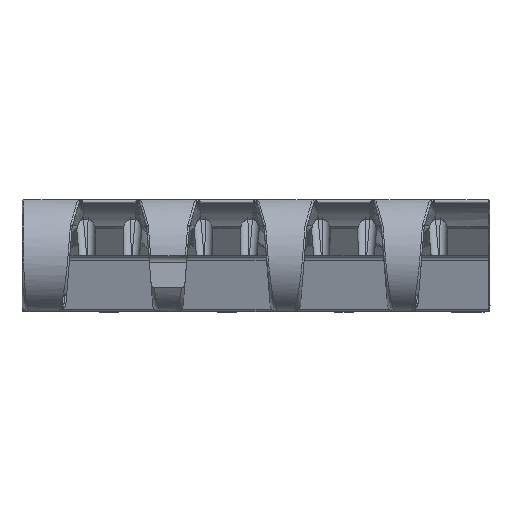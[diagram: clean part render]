
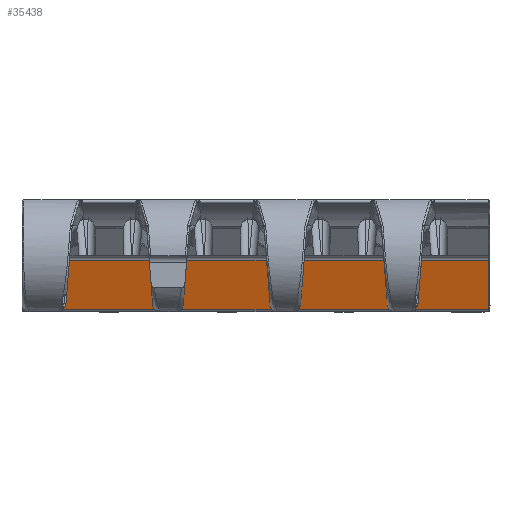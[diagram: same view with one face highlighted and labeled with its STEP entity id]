
A CAD part, top view. The second image highlights one B-rep face of the part: STEP entity #35438.
In plain terms, the highlighted planar face has unit normal (0, -0.283, 0.959).
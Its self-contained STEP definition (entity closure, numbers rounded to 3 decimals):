
#4004=DIRECTION('',(0.,0.959,0.283));
#4005=VECTOR('',#4004,7.356);
#4006=CARTESIAN_POINT('',(12.25,-7.663,1.585));
#4007=LINE('',#4006,#4005);
#5279=DIRECTION('',(0.,-0.959,-0.283));
#5280=VECTOR('',#5279,7.356);
#5281=CARTESIAN_POINT('',(-54.25,-0.609,3.67));
#5282=LINE('',#5281,#5280);
#5392=DIRECTION('',(-1.,0.,0.));
#5393=VECTOR('',#5392,66.5);
#5394=CARTESIAN_POINT('',(12.25,-0.609,3.67));
#5395=LINE('',#5394,#5393);
#5396=DIRECTION('',(1.,0.,0.));
#5397=VECTOR('',#5396,66.5);
#5398=CARTESIAN_POINT('',(-54.25,-7.663,1.585));
#5399=LINE('',#5398,#5397);
#22231=CARTESIAN_POINT('',(12.25,-0.609,3.67));
#22232=VERTEX_POINT('',#22231);
#22233=CARTESIAN_POINT('',(12.25,-7.663,1.585));
#22234=VERTEX_POINT('',#22233);
#22384=CARTESIAN_POINT('',(-54.25,-7.663,1.585));
#22385=VERTEX_POINT('',#22384);
#22386=CARTESIAN_POINT('',(-54.25,-0.609,3.67));
#22387=VERTEX_POINT('',#22386);
#35426=CARTESIAN_POINT('',(0.,0.,3.85));
#35427=DIRECTION('',(0.,-0.283,0.959));
#35428=DIRECTION('',(0.,-0.959,-0.283));
#35429=AXIS2_PLACEMENT_3D('',#35426,#35427,#35428);
#35430=PLANE('',#35429);
#35431=ORIENTED_EDGE('',*,*,#35032,.F.);
#35432=ORIENTED_EDGE('',*,*,#35421,.F.);
#35433=ORIENTED_EDGE('',*,*,#31562,.F.);
#35435=ORIENTED_EDGE('',*,*,#35434,.F.);
#35436=EDGE_LOOP('',(#35431,#35432,#35433,#35435));
#35437=FACE_OUTER_BOUND('',#35436,.F.);
#35438=ADVANCED_FACE('',(#35437),#35430,.T.);
#31562=EDGE_CURVE('',#22234,#22232,#4007,.T.);
#35032=EDGE_CURVE('',#22387,#22385,#5282,.T.);
#35421=EDGE_CURVE('',#22232,#22387,#5395,.T.);
#35434=EDGE_CURVE('',#22385,#22234,#5399,.T.);
